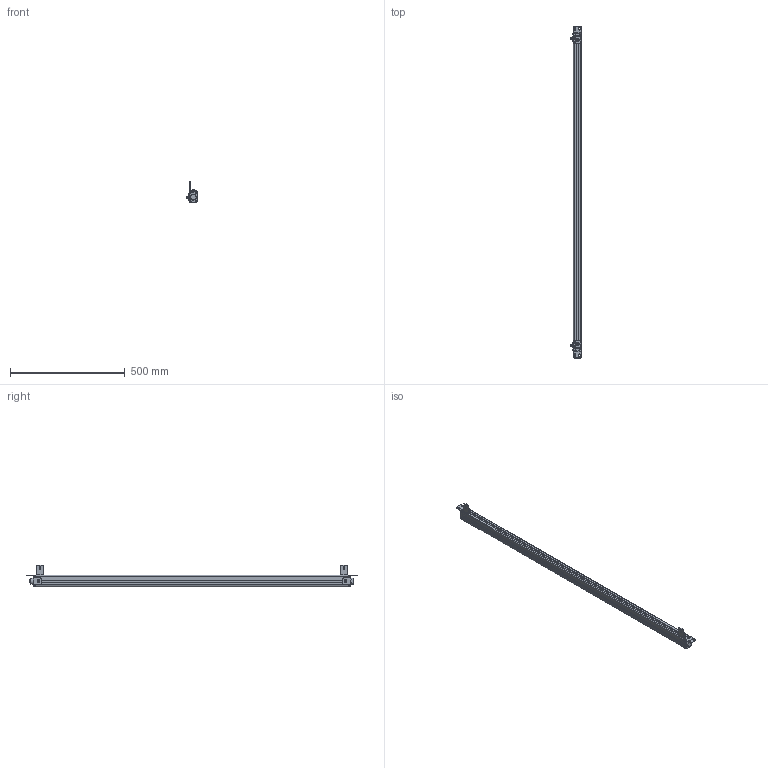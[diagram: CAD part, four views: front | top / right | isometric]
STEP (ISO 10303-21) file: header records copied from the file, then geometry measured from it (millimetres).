
FILE_DESCRIPTION((''),'2;1');
FILE_NAME('ESN--000_ASM','2021-08-11T16:30:43',('18720616900'),(''),'CREO PARAMETRIC BY PTC INC, 2019010','CREO PARAMETRIC BY PTC INC, 2019010','');
FILE_SCHEMA(('CONFIG_CONTROL_DESIGN'));
Length unit declared in the file: millimetre
Products named in the file (22): 00; 000; _0001; 4000; 4--0001; ESN_40001_ASM; L10001; M6-8--0001; M6-1--00; M6-1-00; M6-80001_ASM; L1--0001_ASM; _0002; 0005; ST-3-120001; H1--000; H1--0001_ASM; H1--0003_ASM; ESN--000_ASM
Assembly tree (34 placements, depth 4):
  ESN--000_ASM
    00
    000
    _0001
    000
    ESN_40001_ASM
      4000
      4--0001  x4
    L1--0001_ASM  x2
      L10001
      M6-80001_ASM
        M6-8--0001
        M6-1--00
        M6-1-00
        00
    _0002
    0005
    ST-3-120001  x8
    H1--0001_ASM
      H1--000
      M6-80001_ASM
        M6-8--0001
        M6-1--00
        M6-1-00
        00
    H1--0003_ASM
      H1--000
      M6-80001_ASM
        M6-8--0001
        M6-1--00
        M6-1-00
        00
Bounding box: 46.5 x 1447 x 94.95 mm (x, y, z)
Volume: 2085854.4 mm3; surface area: 424878.2 mm2
Topology: 39 solids, 39 shells, 1727 faces, 4555 edges, 2925 vertices
Faces by surface type: plane 541, cylinder 404, bspline 362, cone 291, torus 105, sphere 24
Entity records: 45714 total; most frequent: CARTESIAN_POINT 24222, ORIENTED_EDGE 4766, DIRECTION 3842, EDGE_CURVE 2383, VERTEX_POINT 1546, AXIS2_PLACEMENT_3D 1400, VECTOR 1042, LINE 1042
